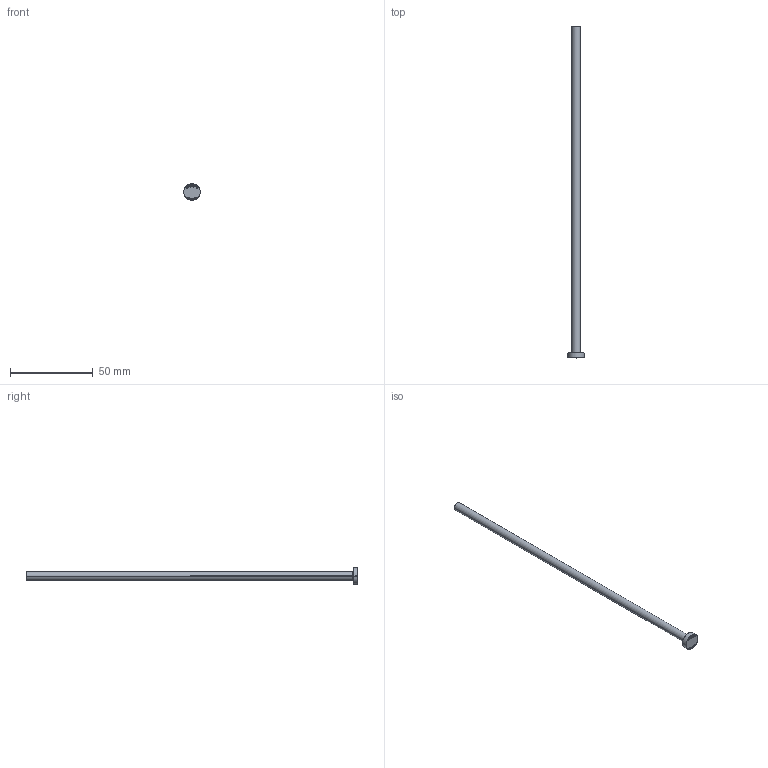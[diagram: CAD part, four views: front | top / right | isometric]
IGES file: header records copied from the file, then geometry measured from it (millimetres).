
Start section: SolidWorks IGES file using analytic representation for surfaces
Global section: file name: C:\Users\User\Downloads\Matripeça 31-08 tar\PB - PINO EXTRATOR TIPO _B_ (CATÁLOGO)\PB05,0\PB05,0200.IGS; native system: SolidWorks 2024; preprocessor: SolidWorks 2024; author: User; date: 260901.142712; units: millimetre
Bounding box: 10 x 200 x 10 mm (x, y, z)
Surface area: 3351.9 mm2 (no closed solid volume)
Topology: 0 solids, 0 shells, 402 faces, 3659 edges, 3659 vertices
Faces by surface type: bspline 388, revolution 14
